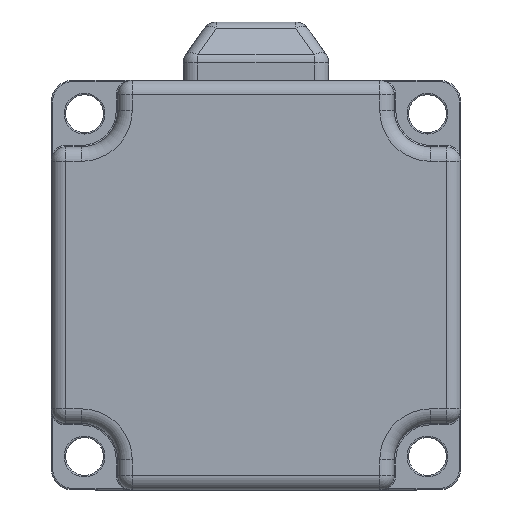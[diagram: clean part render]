
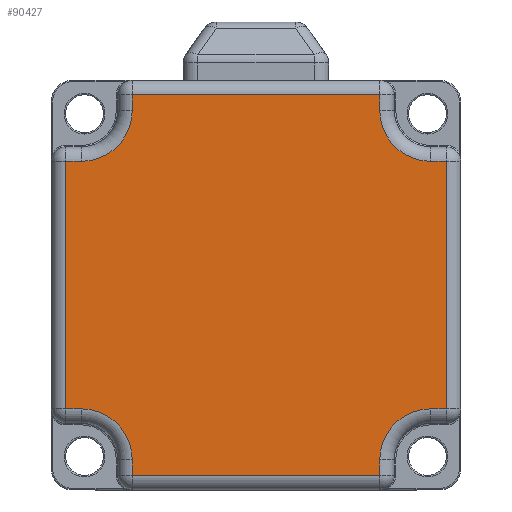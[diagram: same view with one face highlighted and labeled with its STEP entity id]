
A CAD part, front view. The second image highlights one B-rep face of the part: STEP entity #90427.
In plain terms, the highlighted planar face has unit normal (0, -1, 0).
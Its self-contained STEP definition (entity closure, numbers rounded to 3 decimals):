
#1600 = CARTESIAN_POINT ( 'NONE',  ( 24., -20., 17. ) ) ;
#3370 = ORIENTED_EDGE ( 'NONE', *, *, #147705, .T. ) ;
#4504 = VERTEX_POINT ( 'NONE', #58977 ) ;
#5910 = CIRCLE ( 'NONE', #26249, 7. ) ;
#6683 = CARTESIAN_POINT ( 'NONE',  ( 17., -20., 24. ) ) ;
#12192 = CARTESIAN_POINT ( 'NONE',  ( 19., -20., -26.15 ) ) ;
#12956 = DIRECTION ( 'NONE',  ( 0., 0., 1. ) ) ;
#13730 = VERTEX_POINT ( 'NONE', #18255 ) ;
#15258 = CARTESIAN_POINT ( 'NONE',  ( 24., -20., -24. ) ) ;
#15762 = ORIENTED_EDGE ( 'NONE', *, *, #49353, .T. ) ;
#16920 = ORIENTED_EDGE ( 'NONE', *, *, #48127, .T. ) ;
#18114 = VERTEX_POINT ( 'NONE', #70278 ) ;
#18154 = ORIENTED_EDGE ( 'NONE', *, *, #23432, .T. ) ;
#18255 = CARTESIAN_POINT ( 'NONE',  ( 17., -20., -26.15 ) ) ;
#18730 = DIRECTION ( 'NONE',  ( 0., 1., 0. ) ) ;
#19104 = ORIENTED_EDGE ( 'NONE', *, *, #81965, .T. ) ;
#20511 = LINE ( 'NONE', #144000, #43761 ) ;
#20906 = CARTESIAN_POINT ( 'NONE',  ( 0., -20., -17. ) ) ;
#23432 = EDGE_CURVE ( 'NONE', #143031, #172669, #41962, .T. ) ;
#23727 = VECTOR ( 'NONE', #84117, 1000. ) ;
#24517 = EDGE_CURVE ( 'NONE', #104536, #80074, #170448, .T. ) ;
#25110 = VERTEX_POINT ( 'NONE', #101413 ) ;
#26082 = CARTESIAN_POINT ( 'NONE',  ( -17., -20., 24. ) ) ;
#26249 = AXIS2_PLACEMENT_3D ( 'NONE', #15258, #70900, #126760 ) ;
#30889 = LINE ( 'NONE', #12192, #39101 ) ;
#32167 = VECTOR ( 'NONE', #125442, 1000. ) ;
#32327 = ORIENTED_EDGE ( 'NONE', *, *, #152916, .T. ) ;
#32392 = EDGE_LOOP ( 'NONE', ( #152328, #106895, #69467, #35993, #15762, #112334, #3370, #16920, #134322, #180527, #19104, #32327, #18154, #136970, #79707, #38003 ) ) ;
#35993 = ORIENTED_EDGE ( 'NONE', *, *, #47741, .T. ) ;
#38003 = ORIENTED_EDGE ( 'NONE', *, *, #54332, .T. ) ;
#39101 = VECTOR ( 'NONE', #85803, 1000. ) ;
#39154 = CARTESIAN_POINT ( 'NONE',  ( -26.15, -20., -17. ) ) ;
#40319 = VERTEX_POINT ( 'NONE', #61274 ) ;
#40394 = DIRECTION ( 'NONE',  ( 0., 0., -1. ) ) ;
#41950 = VERTEX_POINT ( 'NONE', #26082 ) ;
#41962 = LINE ( 'NONE', #97806, #23727 ) ;
#42507 = FACE_OUTER_BOUND ( 'NONE', #32392, .T. ) ;
#43761 = VECTOR ( 'NONE', #101819, 1000. ) ;
#45161 = CARTESIAN_POINT ( 'NONE',  ( 17., -20., 28.15 ) ) ;
#45865 = VECTOR ( 'NONE', #61057, 1000. ) ;
#47299 = EDGE_CURVE ( 'NONE', #80074, #55378, #148331, .T. ) ;
#47741 = EDGE_CURVE ( 'NONE', #25110, #40319, #5910, .T. ) ;
#48127 = EDGE_CURVE ( 'NONE', #90998, #104536, #93674, .T. ) ;
#49353 = EDGE_CURVE ( 'NONE', #40319, #95194, #169934, .T. ) ;
#50439 = CARTESIAN_POINT ( 'NONE',  ( 0., -20., 17. ) ) ;
#54332 = EDGE_CURVE ( 'NONE', #18114, #67773, #91094, .T. ) ;
#55378 = VERTEX_POINT ( 'NONE', #144749 ) ;
#55899 = LINE ( 'NONE', #110776, #32167 ) ;
#58977 = CARTESIAN_POINT ( 'NONE',  ( 26.15, -20., 17. ) ) ;
#61057 = DIRECTION ( 'NONE',  ( 1., 0., 0. ) ) ;
#61274 = CARTESIAN_POINT ( 'NONE',  ( 24., -20., -17. ) ) ;
#65092 = AXIS2_PLACEMENT_3D ( 'NONE', #122766, #121891, #40394 ) ;
#66820 = VECTOR ( 'NONE', #134629, 1000. ) ;
#67773 = VERTEX_POINT ( 'NONE', #73152 ) ;
#68804 = CARTESIAN_POINT ( 'NONE',  ( -26.15, -20., -19. ) ) ;
#69467 = ORIENTED_EDGE ( 'NONE', *, *, #88253, .T. ) ;
#69511 = VECTOR ( 'NONE', #106214, 1000. ) ;
#69730 = EDGE_CURVE ( 'NONE', #159481, #18114, #92133, .T. ) ;
#70278 = CARTESIAN_POINT ( 'NONE',  ( -24., -20., -17. ) ) ;
#70760 = VECTOR ( 'NONE', #116866, 1000. ) ;
#70900 = DIRECTION ( 'NONE',  ( 0., 1., 0. ) ) ;
#72639 = DIRECTION ( 'NONE',  ( 0., 0., -1. ) ) ;
#73152 = CARTESIAN_POINT ( 'NONE',  ( -17., -20., -24. ) ) ;
#77871 = LINE ( 'NONE', #50439, #69511 ) ;
#79707 = ORIENTED_EDGE ( 'NONE', *, *, #69730, .T. ) ;
#80074 = VERTEX_POINT ( 'NONE', #120597 ) ;
#81965 = EDGE_CURVE ( 'NONE', #55378, #41950, #20511, .T. ) ;
#82274 = CARTESIAN_POINT ( 'NONE',  ( 17., -20., 0. ) ) ;
#84117 = DIRECTION ( 'NONE',  ( -1., 0., 0. ) ) ;
#85803 = DIRECTION ( 'NONE',  ( 1., 0., 0. ) ) ;
#88253 = EDGE_CURVE ( 'NONE', #13730, #25110, #138152, .T. ) ;
#90427 = ADVANCED_FACE ( 'NONE', ( #42507 ), #98325, .T. ) ;
#90998 = VERTEX_POINT ( 'NONE', #1600 ) ;
#91094 = CIRCLE ( 'NONE', #131993, 7. ) ;
#92133 = LINE ( 'NONE', #20906, #45865 ) ;
#92341 = CARTESIAN_POINT ( 'NONE',  ( -17., -20., -28.15 ) ) ;
#93227 = LINE ( 'NONE', #92341, #168997 ) ;
#93674 = CIRCLE ( 'NONE', #119974, 7. ) ;
#95194 = VERTEX_POINT ( 'NONE', #137981 ) ;
#96601 = DIRECTION ( 'NONE',  ( 0., 1., 0. ) ) ;
#97806 = CARTESIAN_POINT ( 'NONE',  ( -28.15, -20., 17. ) ) ;
#98325 = PLANE ( 'NONE',  #65092 ) ;
#100421 = CARTESIAN_POINT ( 'NONE',  ( 28.15, -20., -17. ) ) ;
#101413 = CARTESIAN_POINT ( 'NONE',  ( 17., -20., -24. ) ) ;
#101819 = DIRECTION ( 'NONE',  ( 0., 0., -1. ) ) ;
#103225 = VECTOR ( 'NONE', #130250, 1000. ) ;
#104536 = VERTEX_POINT ( 'NONE', #6683 ) ;
#106214 = DIRECTION ( 'NONE',  ( -1., 0., 0. ) ) ;
#106895 = ORIENTED_EDGE ( 'NONE', *, *, #169447, .T. ) ;
#109042 = DIRECTION ( 'NONE',  ( 0., 0., -1. ) ) ;
#110758 = CARTESIAN_POINT ( 'NONE',  ( 24., -20., 24. ) ) ;
#110776 = CARTESIAN_POINT ( 'NONE',  ( 26.15, -20., 0. ) ) ;
#110798 = CARTESIAN_POINT ( 'NONE',  ( -17., -20., -26.15 ) ) ;
#112189 = DIRECTION ( 'NONE',  ( 0., 0., -1. ) ) ;
#112334 = ORIENTED_EDGE ( 'NONE', *, *, #166672, .T. ) ;
#113847 = VECTOR ( 'NONE', #12956, 1000. ) ;
#114639 = VERTEX_POINT ( 'NONE', #110798 ) ;
#116866 = DIRECTION ( 'NONE',  ( 1., 0., 0. ) ) ;
#117045 = EDGE_CURVE ( 'NONE', #172669, #159481, #136552, .T. ) ;
#119974 = AXIS2_PLACEMENT_3D ( 'NONE', #110758, #125424, #127233 ) ;
#120597 = CARTESIAN_POINT ( 'NONE',  ( 17., -20., 26.15 ) ) ;
#121891 = DIRECTION ( 'NONE',  ( 0., -1., 0. ) ) ;
#122146 = CARTESIAN_POINT ( 'NONE',  ( -26.15, -20., 17. ) ) ;
#122766 = CARTESIAN_POINT ( 'NONE',  ( 0., -20., 0. ) ) ;
#123565 = CIRCLE ( 'NONE', #132788, 7. ) ;
#123587 = CARTESIAN_POINT ( 'NONE',  ( -24., -20., 17. ) ) ;
#125424 = DIRECTION ( 'NONE',  ( 0., 1., 0. ) ) ;
#125442 = DIRECTION ( 'NONE',  ( 0., 0., 1. ) ) ;
#126760 = DIRECTION ( 'NONE',  ( 0., 0., -1. ) ) ;
#127233 = DIRECTION ( 'NONE',  ( 0., 0., -1. ) ) ;
#130250 = DIRECTION ( 'NONE',  ( 0., 0., 1. ) ) ;
#131993 = AXIS2_PLACEMENT_3D ( 'NONE', #180789, #96601, #112189 ) ;
#132788 = AXIS2_PLACEMENT_3D ( 'NONE', #142224, #18730, #72639 ) ;
#134322 = ORIENTED_EDGE ( 'NONE', *, *, #24517, .T. ) ;
#134629 = DIRECTION ( 'NONE',  ( -1., 0., 0. ) ) ;
#136552 = LINE ( 'NONE', #68804, #174772 ) ;
#136970 = ORIENTED_EDGE ( 'NONE', *, *, #117045, .T. ) ;
#137981 = CARTESIAN_POINT ( 'NONE',  ( 26.15, -20., -17. ) ) ;
#138152 = LINE ( 'NONE', #82274, #113847 ) ;
#142224 = CARTESIAN_POINT ( 'NONE',  ( -24., -20., 24. ) ) ;
#143031 = VERTEX_POINT ( 'NONE', #123587 ) ;
#144000 = CARTESIAN_POINT ( 'NONE',  ( -17., -20., 0. ) ) ;
#144749 = CARTESIAN_POINT ( 'NONE',  ( -17., -20., 26.15 ) ) ;
#147705 = EDGE_CURVE ( 'NONE', #4504, #90998, #77871, .T. ) ;
#148331 = LINE ( 'NONE', #160205, #66820 ) ;
#149052 = DIRECTION ( 'NONE',  ( 0., 0., -1. ) ) ;
#152328 = ORIENTED_EDGE ( 'NONE', *, *, #179270, .T. ) ;
#152916 = EDGE_CURVE ( 'NONE', #41950, #143031, #123565, .T. ) ;
#159481 = VERTEX_POINT ( 'NONE', #39154 ) ;
#160205 = CARTESIAN_POINT ( 'NONE',  ( 0., -20., 26.15 ) ) ;
#166672 = EDGE_CURVE ( 'NONE', #95194, #4504, #55899, .T. ) ;
#168997 = VECTOR ( 'NONE', #149052, 1000. ) ;
#169447 = EDGE_CURVE ( 'NONE', #114639, #13730, #30889, .T. ) ;
#169934 = LINE ( 'NONE', #100421, #70760 ) ;
#170448 = LINE ( 'NONE', #45161, #103225 ) ;
#172669 = VERTEX_POINT ( 'NONE', #122146 ) ;
#174772 = VECTOR ( 'NONE', #109042, 1000. ) ;
#179270 = EDGE_CURVE ( 'NONE', #67773, #114639, #93227, .T. ) ;
#180527 = ORIENTED_EDGE ( 'NONE', *, *, #47299, .T. ) ;
#180789 = CARTESIAN_POINT ( 'NONE',  ( -24., -20., -24. ) ) ;
